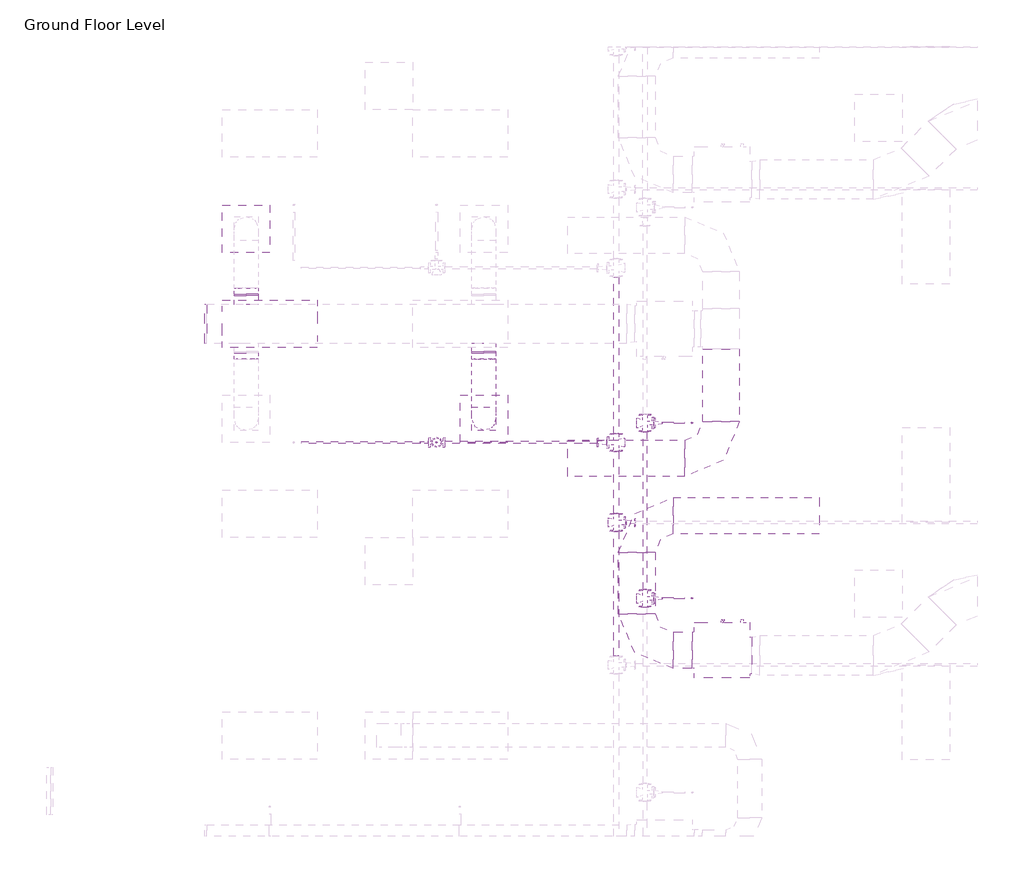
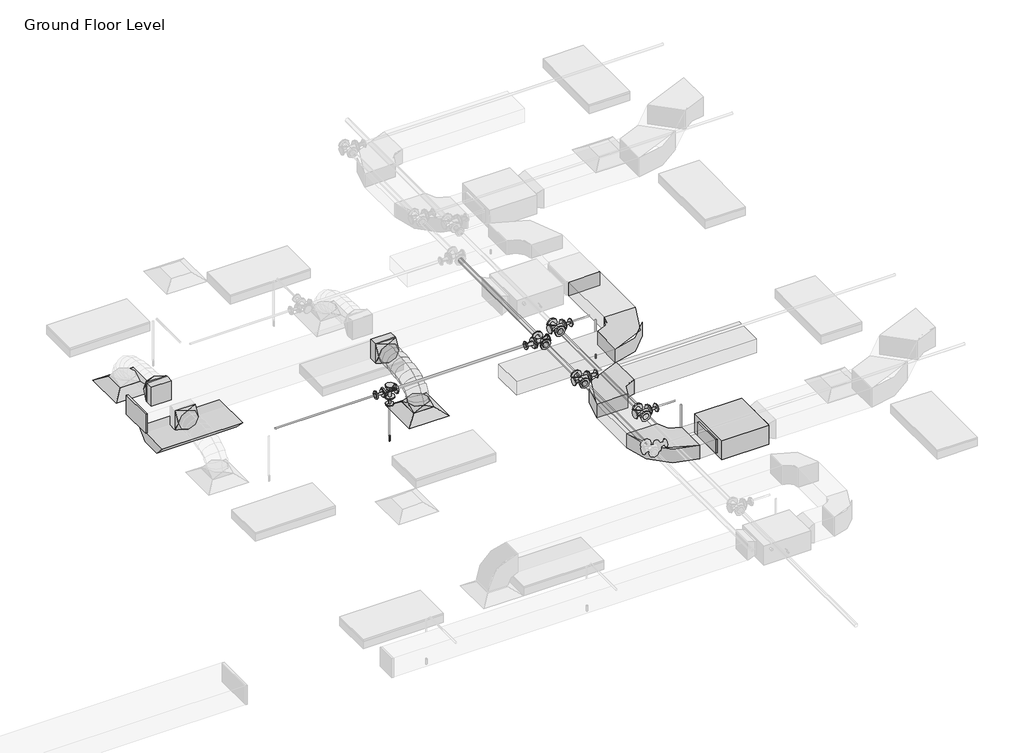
# One storey, part 57 of 68: 11 duct fittings, 11 pipe fittings, 11 pipe segments, 8 duct segments, 3 fire suppression terminals, 2 air terminals, 1 light fixture, 1 proxy.
"""IFC4 building model written with IfcOpenShell, lengths in millimetres."""

from ifc_helpers import new_model, si_unit, point, frame, frame_2d, origin, place, context, project, spatial, polyline, circle_curve, ellipse_curve, trimmed, segment, composite_curve, outline, extrude, transform, mapped, element, save
from ifc_brep_helpers import plane_surface, cylinder_surface, advanced_brep
from components import m_return_diffuser_600_x_600_face_300_x_300_connection_ff221211, fcu_daikin_iu_bad131e0, m_rectangular_elbow_radius_1_w_54c96895, m_rectangular_elbow_radius_1_w_0fa52825, m_rectangular_endcap_standard_72d4d00d, m_rectangular_takeoff_standard_cb0ccb98, m_rectangular_takeoff_standard_2be5eba1, m_rectangular_transition_angle_45_degree_27e6000f, m_rectangular_to_round_transition_angle_45_degree_641efff0, m_sprinkler_dry_pendent_hosted_15_mm_dry_pendent_9bda8e11, m_sprinkler_pendent_15_mm_pendent_06fcbd8e, m_emergency_recessed_lighting_fixture_600x1200_277_5b10b25d, m_reducer_flanged_cs_class_150_standard_ccf252ad, m_reducer_flanged_cs_class_150_standard_83138b42, m_reducer_flanged_cs_class_150_standard_a7631c35, m_reducer_flanged_cs_class_150_standard_5e9b2cee, m_tee_round_base_flanged_cs_class_150_standard_dd767e04, m_tee_round_base_flanged_cs_class_150_standard_7e5987a1, m_tee_round_base_flanged_cs_class_150_standard_ab36f383

model = new_model("IFC4")

# Units and contexts
model_context = context("Model", 3, world=origin())
ifc_project = project(units=[si_unit("LENGTHUNIT", "METRE", prefix="MILLI")], contexts=[model_context])

# Site, building, storey
site = spatial("IfcSite", under=ifc_project)
building = spatial("IfcBuilding", under=site)
storey = spatial("IfcBuildingStorey", under=building, Name="Ground Floor Level", Elevation=900.0)

# Air terminals
placement = place(None, origin())
m_return_diffuser_600_x_600_face_300_x_300_connection_shape = m_return_diffuser_600_x_600_face_300_x_300_connection_ff221211(model_context)
element("IfcAirTerminal", 1, ObjectType="M_Supply Diffuser : 600 x 600 Face 300 x 300 Connection", at=placement, inside=storey, context=model_context, shape_type="MappedRepresentation", body=[
    mapped(m_return_diffuser_600_x_600_face_300_x_300_connection_shape, transform((962.7672395, 5335.2153534, 3650.0), x_axis=(1.0, 0.0, 0.0), y_axis=(0.0, 1.0, 0.0), z_axis=(0.0, 0.0, 1.0))),
])
element("IfcAirTerminal", 2, ObjectType="M_Supply Diffuser : 600 x 600 Face 300 x 300 Connection", at=placement, inside=storey, context=model_context, shape_type="MappedRepresentation", body=[
    mapped(m_return_diffuser_600_x_600_face_300_x_300_connection_shape, transform((3962.7672395, 2935.2153534, 3650.0), x_axis=(1.0, 0.0, 0.0), y_axis=(0.0, 1.0, 0.0), z_axis=(0.0, 0.0, 1.0))),
])

# Proxy
fcu_daikin_iu_shape = fcu_daikin_iu_bad131e0(model_context)
element("IfcBuildingElementProxy", 3, Name="FCU-DAIKIN IU : 4.5kW, 230V/50Hz/1Ph", ObjectType="FCU-DAIKIN IU : 4.5kW, 230V/50Hz/1Ph", at=placement, inside=storey, context=model_context, shape_type="MappedRepresentation", body=[
    mapped(fcu_daikin_iu_shape, transform((6968.8139492, 9.6779527, 3934.0932729), x_axis=(0.0, 1.0, 0.0), y_axis=(-1.0, 0.0, 0.0), z_axis=(0.0, 0.0, 1.0))),
])

# Duct fittings
m_rectangular_elbow_radius_1_w_shape = m_rectangular_elbow_radius_1_w_54c96895(model_context)
element("IfcDuctFitting", 4, ObjectType="M_Rectangular Elbow - Radius : 1 W", at=placement, inside=storey, context=model_context, shape_type="MappedRepresentation", body=[
    mapped(m_rectangular_elbow_radius_1_w_shape, transform((5893.4139492, 9.6779527, 4075.2932729), x_axis=(0.0, -1.0, 0.0), y_axis=(1.0, 0.0, 0.0), z_axis=(0.0, 0.0, 1.0))),
])
element("IfcDuctFitting", 5, ObjectType="M_Rectangular Elbow - Radius : 1 W", at=placement, inside=storey, context=model_context, shape_type="MappedRepresentation", body=[
    mapped(m_rectangular_elbow_radius_1_w_shape, transform((5893.4139492, 1709.6783949, 4075.2932729), x_axis=(-1.0, 0.0, 0.0), y_axis=(0.0, -1.0, 0.0), z_axis=(0.0, 0.0, 1.0))),
])
m_rectangular_elbow_radius_1_w_2_shape = m_rectangular_elbow_radius_1_w_0fa52825(model_context)
element("IfcDuctFitting", 6, ObjectType="M_Rectangular Elbow - Radius : 1 W", at=placement, inside=storey, context=model_context, shape_type="MappedRepresentation", body=[
    mapped(m_rectangular_elbow_radius_1_w_2_shape, transform((6958.8139492, 2435.5824167, 4075.2875), x_axis=(1.0, 0.0, 0.0), y_axis=(0.0, 1.0, 0.0), z_axis=(0.0, 0.0, 1.0))),
])
m_rectangular_endcap_standard_shape = m_rectangular_endcap_standard_72d4d00d(model_context)
element("IfcDuctFitting", 7, ObjectType="M_Rectangular Endcap : Standard", at=placement, inside=storey, context=model_context, shape_type="MappedRepresentation", body=[
    mapped(m_rectangular_endcap_standard_shape, transform((468.0139492, 4135.0199167, 4099.9875), x_axis=(-0.9999999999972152, 0.0, -2.3600398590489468e-06), y_axis=(0.0, -1.0000000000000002, 0.0), z_axis=(-2.3600398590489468e-06, 0.0, 0.9999999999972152))),
])
m_rectangular_takeoff_standard_shape = m_rectangular_takeoff_standard_cb0ccb98(model_context)
element("IfcDuctFitting", 8, ObjectType="M_Rectangular Takeoff : Standard", at=placement, inside=storey, context=model_context, shape_type="MappedRepresentation", body=[
    mapped(m_rectangular_takeoff_standard_shape, transform((3962.7672395, 3885.0199167, 4099.9957478), x_axis=(0.0, -1.0, 0.0), y_axis=(-1.0, 0.0, 0.0), z_axis=(0.0, 0.0, -1.0))),
])
m_rectangular_takeoff_standard_2_shape = m_rectangular_takeoff_standard_2be5eba1(model_context)
element("IfcDuctFitting", 9, ObjectType="M_Rectangular Takeoff : Standard", at=placement, inside=storey, context=model_context, shape_type="MappedRepresentation", body=[
    mapped(m_rectangular_takeoff_standard_2_shape, transform((962.7672395, 4385.0199167, 4099.9886676), x_axis=(0.0, 1.0, 0.0), y_axis=(1.0, 0.0, 0.0), z_axis=(0.0, 0.0, -1.0))),
])
m_rectangular_transition_angle_45_degree_shape = m_rectangular_transition_angle_45_degree_27e6000f(model_context)
element("IfcDuctFitting", 10, ObjectType="M_Rectangular Transition - Angle : 45 Degree", at=placement, inside=storey, context=model_context, shape_type="MappedRepresentation", body=[
    mapped(m_rectangular_transition_angle_45_degree_shape, transform((6958.8139492, 3815.5824167, 4075.2875), x_axis=(0.0, -1.0, 0.0), y_axis=(1.0, 0.0, 0.0), z_axis=(0.0, 0.0, 1.0))),
])
m_rectangular_to_round_transition_angle_45_degree_shape = m_rectangular_to_round_transition_angle_45_degree_641efff0(model_context)
element("IfcDuctFitting", 11, ObjectType="M_Rectangular to Round Transition - Angle : 45 Degree", at=placement, inside=storey, context=model_context, shape_type="MappedRepresentation", body=[
    mapped(m_rectangular_to_round_transition_angle_45_degree_shape, transform((962.7672395, 4507.8680897, 4099.9886676), x_axis=(0.0, 1.0, 0.0), y_axis=(-1.0, 0.0, 0.0), z_axis=(0.0, 0.0, 1.0))),
])
element("IfcDuctFitting", 12, ObjectType="M_Rectangular to Round Transition - Angle : 45 Degree", at=placement, inside=storey, context=model_context, shape_type="MappedRepresentation", body=[
    mapped(m_rectangular_to_round_transition_angle_45_degree_shape, transform((3962.7672395, 2935.2153534, 3751.6), x_axis=(0.0, 0.0, 1.0), y_axis=(-1.0, 0.0, 0.0), z_axis=(0.0, -1.0, 0.0))),
])
element("IfcDuctFitting", 13, ObjectType="M_Rectangular to Round Transition - Angle : 45 Degree", at=placement, inside=storey, context=model_context, shape_type="MappedRepresentation", body=[
    mapped(m_rectangular_to_round_transition_angle_45_degree_shape, transform((3962.7672395, 3762.5555369, 4099.9957478), x_axis=(0.0, -1.0, 0.0), y_axis=(1.0, 0.0, 0.0), z_axis=(0.0, 0.0, 1.0))),
])
element("IfcDuctFitting", 14, ObjectType="M_Rectangular to Round Transition - Angle : 45 Degree", at=placement, inside=storey, context=model_context, shape_type="MappedRepresentation", body=[
    mapped(m_rectangular_to_round_transition_angle_45_degree_shape, transform((962.7672395, 3762.562617, 4099.9886676), x_axis=(0.0, -1.0, 0.0), y_axis=(1.0, 0.0, 0.0), z_axis=(0.0, 0.0, 1.0))),
])

# Duct segments
element("IfcDuctSegment", 15, ObjectType="Flex - Round", at=placement, inside=storey, context=model_context, shape_type="AdvancedBrep", body=[
    advanced_brep(
    [(4112.7672395, 2935.2153534, 3826.6), (3962.7672395, 2785.2153534, 3826.6), (3812.7672395, 2935.2153534, 3826.6), (3962.7672395, 3085.2153534, 3826.6), (4112.7672395, 2935.2153534, 3857.9378899), (3962.7672395, 2785.2153534, 3883.5813304), (3812.7672395, 2935.2153534, 3857.9378899), (3962.7672395, 3085.2153534, 3832.2944495), (4112.7672395, 2952.2314038, 3906.2506504), (3962.7672395, 2818.4936927, 3978.0667363), (3812.7672395, 2952.2314038, 3906.2506504), (3962.7672395, 3085.969115, 3834.4345644), (4112.7672395, 2999.4156052, 3968.7111185), (3962.7672395, 2895.2104338, 4079.6211427), (3812.7672395, 2999.4156052, 3968.7111185), (3962.7672395, 3103.6207766, 3857.8010943), (4112.7672395, 3070.9720324, 4016.0693384), (3962.7672395, 3002.0391237, 4150.3236188), (3812.7672395, 3070.9720324, 4016.0693384), (3962.7672395, 3139.9049411, 3881.8150579), (4112.7672395, 3161.1047605, 4050.413244), (3962.7672395, 3117.545251, 4194.3357287), (3812.7672395, 3161.1047605, 4050.413244), (3962.7672395, 3204.66427, 3906.4907592), (4112.7672395, 3264.0178643, 4073.8307693), (3962.7672395, 3237.4581287, 4221.6214946), (3812.7672395, 3264.0178643, 4073.8307693), (3962.7672395, 3290.5775999, 3926.0400441), (4112.7672395, 3373.9154189, 4088.4098484), (3962.7672395, 3358.7655495, 4237.7142137), (3812.7672395, 3373.9154189, 4088.4098484), (3962.7672395, 3389.0652883, 3939.1054831), (4112.7672395, 3485.0014992, 4096.2384151), (3962.7672395, 3477.4969747, 4246.0815706), (3812.7672395, 3485.0014992, 4096.2384151), (3962.7672395, 3492.5060238, 3946.3952596), (4112.7672395, 3591.4801802, 4099.4044036), (3962.7672395, 3588.7891594, 4249.3906816), (3812.7672395, 3591.4801802, 4099.4044036), (3962.7672395, 3594.1712011, 3949.4181256), (4112.7672395, 3687.5555369, 4099.9957478), (3962.7672395, 3688.47877, 3949.998589), (3812.7672395, 3687.5555369, 4099.9957478), (3962.7672395, 3686.6323039, 4249.9929065)],
    [
        (0, 1, circle_curve(frame((3962.7672395, 2935.2153534, 3826.6), z_axis=(0.0, 0.0, -1.0), x_axis=(1.0, 0.0, 0.0)), 150.0)),
        (1, 2, circle_curve(frame((3962.7672395, 2935.2153534, 3826.6), z_axis=(0.0, 0.0, -1.0), x_axis=(1.0, 0.0, 0.0)), 150.0)),
        (2, 3, circle_curve(frame((3962.7672395, 2935.2153534, 3826.6), z_axis=(0.0, 0.0, -1.0), x_axis=(1.0, 0.0, 0.0)), 150.0)),
        (3, 0, circle_curve(frame((3962.7672395, 2935.2153534, 3826.6), z_axis=(0.0, 0.0, -1.0), x_axis=(1.0, 0.0, 0.0)), 150.0)),
        (0, 4),
        (4, 5, ellipse_curve(frame((3962.7672395, 2935.2153534, 3857.9378899), z_axis=(0.0, -0.1685115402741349, -0.9856996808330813), x_axis=(0.0, 0.9856996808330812, -0.1685115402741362)), 152.1761678, 150.0)),
        (5, 1),
        (5, 6, ellipse_curve(frame((3962.7672395, 2935.2153534, 3857.9378899), z_axis=(0.0, -0.1685115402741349, -0.9856996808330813), x_axis=(0.0, 0.9856996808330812, -0.1685115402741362)), 152.1761678, 150.0)),
        (6, 2),
        (6, 7, ellipse_curve(frame((3962.7672395, 2935.2153534, 3857.9378899), z_axis=(0.0, -0.1685115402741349, -0.9856996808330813), x_axis=(0.0, 0.9856996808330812, -0.1685115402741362)), 152.1761678, 150.0)),
        (7, 3),
        (7, 4, ellipse_curve(frame((3962.7672395, 2935.2153534, 3857.9378899), z_axis=(0.0, -0.1685115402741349, -0.9856996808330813), x_axis=(0.0, 0.9856996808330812, -0.1685115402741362)), 152.1761678, 150.0)),
        (4, 8),
        (8, 9, ellipse_curve(frame((3962.7672395, 2952.2314038, 3906.2506504), z_axis=(0.0, -0.47309586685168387, -0.8810109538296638), x_axis=(0.0, 0.8810109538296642, -0.4730958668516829)), 151.8002819, 150.0)),
        (9, 5),
        (9, 10, ellipse_curve(frame((3962.7672395, 2952.2314038, 3906.2506504), z_axis=(0.0, -0.47309586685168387, -0.8810109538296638), x_axis=(0.0, 0.8810109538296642, -0.4730958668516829)), 151.8002819, 150.0)),
        (10, 6),
        (10, 11, ellipse_curve(frame((3962.7672395, 2952.2314038, 3906.2506504), z_axis=(0.0, -0.47309586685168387, -0.8810109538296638), x_axis=(0.0, 0.8810109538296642, -0.4730958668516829)), 151.8002819, 150.0)),
        (11, 7),
        (11, 8, ellipse_curve(frame((3962.7672395, 2952.2314038, 3906.2506504), z_axis=(0.0, -0.47309586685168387, -0.8810109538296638), x_axis=(0.0, 0.8810109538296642, -0.4730958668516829)), 151.8002819, 150.0)),
        (8, 12),
        (12, 13, ellipse_curve(frame((3962.7672395, 2999.4156052, 3968.7111185), z_axis=(0.0, -0.7287924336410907, -0.68473468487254), x_axis=(0.0, 0.6847346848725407, -0.7287924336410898)), 152.1832817, 150.0)),
        (13, 9),
        (13, 14, ellipse_curve(frame((3962.7672395, 2999.4156052, 3968.7111185), z_axis=(0.0, -0.7287924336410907, -0.68473468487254), x_axis=(0.0, 0.6847346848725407, -0.7287924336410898)), 152.1832817, 150.0)),
        (14, 10),
        (14, 15, ellipse_curve(frame((3962.7672395, 2999.4156052, 3968.7111185), z_axis=(0.0, -0.7287924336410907, -0.68473468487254), x_axis=(0.0, 0.6847346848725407, -0.7287924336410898)), 152.1832817, 150.0)),
        (15, 11),
        (15, 12, ellipse_curve(frame((3962.7672395, 2999.4156052, 3968.7111185), z_axis=(0.0, -0.7287924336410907, -0.68473468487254), x_axis=(0.0, 0.6847346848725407, -0.7287924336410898)), 152.1832817, 150.0)),
        (12, 16),
        (16, 17, ellipse_curve(frame((3962.7672395, 3070.9720324, 4016.0693384), z_axis=(0.0, -0.8895898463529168, -0.4567602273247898), x_axis=(0.0, 0.45676022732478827, -0.8895898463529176)), 150.9170558, 150.0)),
        (17, 13),
        (17, 18, ellipse_curve(frame((3962.7672395, 3070.9720324, 4016.0693384), z_axis=(0.0, -0.8895898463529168, -0.4567602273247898), x_axis=(0.0, 0.45676022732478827, -0.8895898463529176)), 150.9170558, 150.0)),
        (18, 14),
        (18, 19, ellipse_curve(frame((3962.7672395, 3070.9720324, 4016.0693384), z_axis=(0.0, -0.8895898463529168, -0.4567602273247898), x_axis=(0.0, 0.45676022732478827, -0.8895898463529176)), 150.9170558, 150.0)),
        (19, 15),
        (19, 16, ellipse_curve(frame((3962.7672395, 3070.9720324, 4016.0693384), z_axis=(0.0, -0.8895898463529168, -0.4567602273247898), x_axis=(0.0, 0.45676022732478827, -0.8895898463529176)), 150.9170558, 150.0)),
        (16, 20),
        (20, 21, ellipse_curve(frame((3962.7672395, 3161.1047605, 4050.413244), z_axis=(0.0, -0.9571228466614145, -0.28968233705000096), x_axis=(0.0, 0.2896823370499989, -0.9571228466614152)), 150.3699188, 150.0)),
        (21, 17),
        (21, 22, ellipse_curve(frame((3962.7672395, 3161.1047605, 4050.413244), z_axis=(0.0, -0.9571228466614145, -0.28968233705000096), x_axis=(0.0, 0.2896823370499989, -0.9571228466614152)), 150.3699188, 150.0)),
        (22, 18),
        (22, 23, ellipse_curve(frame((3962.7672395, 3161.1047605, 4050.413244), z_axis=(0.0, -0.9571228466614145, -0.28968233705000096), x_axis=(0.0, 0.2896823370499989, -0.9571228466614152)), 150.3699188, 150.0)),
        (23, 19),
        (23, 20, ellipse_curve(frame((3962.7672395, 3161.1047605, 4050.413244), z_axis=(0.0, -0.9571228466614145, -0.28968233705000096), x_axis=(0.0, 0.2896823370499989, -0.9571228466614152)), 150.3699188, 150.0)),
        (20, 24),
        (24, 25, ellipse_curve(frame((3962.7672395, 3264.0178643, 4073.8307693), z_axis=(0.0, -0.9842327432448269, -0.17687822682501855), x_axis=(0.0, 0.17687822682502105, -0.9842327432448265)), 150.1583099, 150.0)),
        (25, 21),
        (25, 26, ellipse_curve(frame((3962.7672395, 3264.0178643, 4073.8307693), z_axis=(0.0, -0.9842327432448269, -0.17687822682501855), x_axis=(0.0, 0.17687822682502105, -0.9842327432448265)), 150.1583099, 150.0)),
        (26, 22),
        (26, 27, ellipse_curve(frame((3962.7672395, 3264.0178643, 4073.8307693), z_axis=(0.0, -0.9842327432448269, -0.17687822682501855), x_axis=(0.0, 0.17687822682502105, -0.9842327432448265)), 150.1583099, 150.0)),
        (27, 23),
        (27, 24, ellipse_curve(frame((3962.7672395, 3264.0178643, 4073.8307693), z_axis=(0.0, -0.9842327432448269, -0.17687822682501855), x_axis=(0.0, 0.17687822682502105, -0.9842327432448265)), 150.1583099, 150.0)),
        (24, 28),
        (28, 29, ellipse_curve(frame((3962.7672395, 3373.9154189, 4088.4098484), z_axis=(0.0, -0.9948913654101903, -0.10095133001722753), x_axis=(0.0, 0.10095133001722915, -0.9948913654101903)), 150.0710233, 150.0)),
        (29, 25),
        (29, 30, ellipse_curve(frame((3962.7672395, 3373.9154189, 4088.4098484), z_axis=(0.0, -0.9948913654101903, -0.10095133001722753), x_axis=(0.0, 0.10095133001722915, -0.9948913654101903)), 150.0710233, 150.0)),
        (30, 26),
        (30, 31, ellipse_curve(frame((3962.7672395, 3373.9154189, 4088.4098484), z_axis=(0.0, -0.9948913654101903, -0.10095133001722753), x_axis=(0.0, 0.10095133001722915, -0.9948913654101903)), 150.0710233, 150.0)),
        (31, 27),
        (31, 28, ellipse_curve(frame((3962.7672395, 3373.9154189, 4088.4098484), z_axis=(0.0, -0.9948913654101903, -0.10095133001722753), x_axis=(0.0, 0.10095133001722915, -0.9948913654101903)), 150.0710233, 150.0)),
        (28, 32),
        (32, 33, ellipse_curve(frame((3962.7672395, 3485.0014992, 4096.2384151), z_axis=(0.0, -0.9987482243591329, -0.05001983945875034), x_axis=(0.0, 0.05001983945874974, -0.9987482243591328)), 150.0309606, 150.0)),
        (33, 29),
        (33, 34, ellipse_curve(frame((3962.7672395, 3485.0014992, 4096.2384151), z_axis=(0.0, -0.9987482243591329, -0.05001983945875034), x_axis=(0.0, 0.05001983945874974, -0.9987482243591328)), 150.0309606, 150.0)),
        (34, 30),
        (34, 35, ellipse_curve(frame((3962.7672395, 3485.0014992, 4096.2384151), z_axis=(0.0, -0.9987482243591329, -0.05001983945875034), x_axis=(0.0, 0.05001983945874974, -0.9987482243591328)), 150.0309606, 150.0)),
        (35, 31),
        (35, 32, ellipse_curve(frame((3962.7672395, 3485.0014992, 4096.2384151), z_axis=(0.0, -0.9987482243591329, -0.05001983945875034), x_axis=(0.0, 0.05001983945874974, -0.9987482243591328)), 150.0309606, 150.0)),
        (32, 36),
        (36, 37, ellipse_curve(frame((3962.7672395, 3591.4801802, 4099.4044036), z_axis=(0.0, -0.9998390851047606, -0.017938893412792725), x_axis=(0.0, 0.017938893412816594, -0.99983908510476)), 150.0104169, 150.0)),
        (37, 33),
        (37, 38, ellipse_curve(frame((3962.7672395, 3591.4801802, 4099.4044036), z_axis=(0.0, -0.9998390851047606, -0.017938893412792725), x_axis=(0.0, 0.017938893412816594, -0.99983908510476)), 150.0104169, 150.0)),
        (38, 34),
        (38, 39, ellipse_curve(frame((3962.7672395, 3591.4801802, 4099.4044036), z_axis=(0.0, -0.9998390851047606, -0.017938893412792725), x_axis=(0.0, 0.017938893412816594, -0.99983908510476)), 150.0104169, 150.0)),
        (39, 35),
        (39, 36, ellipse_curve(frame((3962.7672395, 3591.4801802, 4099.4044036), z_axis=(0.0, -0.9998390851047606, -0.017938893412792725), x_axis=(0.0, 0.017938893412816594, -0.99983908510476)), 150.0104169, 150.0)),
        (40, 41, circle_curve(frame((3962.7672395, 3687.5555369, 4099.9957478), z_axis=(0.0, 0.9999810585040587, 0.006154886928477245), x_axis=(1.0, 0.0, 0.0)), 150.0)),
        (41, 42, circle_curve(frame((3962.7672395, 3687.5555369, 4099.9957478), z_axis=(0.0, 0.9999810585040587, 0.006154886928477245), x_axis=(1.0, 0.0, 0.0)), 150.0)),
        (42, 43, circle_curve(frame((3962.7672395, 3687.5555369, 4099.9957478), z_axis=(0.0, 0.9999810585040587, 0.006154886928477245), x_axis=(1.0, 0.0, 0.0)), 150.0)),
        (43, 40, circle_curve(frame((3962.7672395, 3687.5555369, 4099.9957478), z_axis=(0.0, 0.9999810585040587, 0.006154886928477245), x_axis=(1.0, 0.0, 0.0)), 150.0)),
        (36, 40),
        (43, 37),
        (42, 38),
        (41, 39),
    ],
    [
        plane_surface(frame((3962.7672395, 2785.2153534, 3826.6), z_axis=(0.0, 0.0, -1.0), x_axis=(1.0, 0.0, 0.0))),
        cylinder_surface(frame((3962.7672395, 2935.2153534, 3826.6), z_axis=(0.0, 0.0, -1.0), x_axis=(1.0, 0.0, 0.0)), 150.0),
        cylinder_surface(frame((3962.7672395, 2935.2153534, 3857.9378899), z_axis=(0.0, -0.33220354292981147, -0.9432077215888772), x_axis=(1.0, 0.0, 0.0)), 150.0),
        cylinder_surface(frame((3962.7672395, 2952.2314038, 3906.2506504), z_axis=(0.0, -0.6027667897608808, -0.7979174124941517), x_axis=(1.0, 0.0, 0.0)), 150.0),
        cylinder_surface(frame((3962.7672395, 2999.4156052, 3968.7111185), z_axis=(0.0, -0.833906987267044, -0.5519050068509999), x_axis=(1.0, 0.0, 0.0)), 150.0),
        cylinder_surface(frame((3962.7672395, 3070.9720324, 4016.0693384), z_axis=(0.0, -0.9344614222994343, -0.35606439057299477), x_axis=(1.0, 0.0, 0.0)), 150.0),
        cylinder_surface(frame((3962.7672395, 3161.1047605, 4050.413244), z_axis=(0.0, -0.9750751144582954, -0.22187501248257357), x_axis=(1.0, 0.0, 0.0)), 150.0),
        cylinder_surface(frame((3962.7672395, 3264.0178643, 4073.8307693), z_axis=(0.0, -0.9913150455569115, -0.1315084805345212), x_axis=(1.0, 0.0, 0.0)), 150.0),
        cylinder_surface(frame((3962.7672395, 3373.9154189, 4088.4098484), z_axis=(0.0, -0.997525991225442, -0.07029862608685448), x_axis=(1.0, 0.0, 0.0)), 150.0),
        cylinder_surface(frame((3962.7672395, 3485.0014992, 4096.2384151), z_axis=(0.0, -0.9995582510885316, -0.029720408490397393), x_axis=(1.0, 0.0, 0.0)), 150.0),
        plane_surface(frame((3962.7672395, 3686.6323039, 4249.9929065), z_axis=(0.0, 0.9999810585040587, 0.006154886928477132), x_axis=(1.0, 0.0, 0.0))),
        cylinder_surface(frame((3962.7672395, 3591.4801802, 4099.4044036), z_axis=(0.0, -0.9999810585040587, -0.006154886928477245), x_axis=(1.0, 0.0, 0.0)), 150.0),
    ],
    [
        (0, [[1, 2, 3, 4]]),
        (1, [[-1, 5, 6, 7]]),
        (1, [[-2, -7, 8, 9]]),
        (1, [[-3, -9, 10, 11]]),
        (1, [[-4, -11, 12, -5]]),
        (2, [[-6, 13, 14, 15]]),
        (2, [[-8, -15, 16, 17]]),
        (2, [[-10, -17, 18, 19]]),
        (2, [[-12, -19, 20, -13]]),
        (3, [[-14, 21, 22, 23]]),
        (3, [[-16, -23, 24, 25]]),
        (3, [[-18, -25, 26, 27]]),
        (3, [[-20, -27, 28, -21]]),
        (4, [[-22, 29, 30, 31]]),
        (4, [[-24, -31, 32, 33]]),
        (4, [[-26, -33, 34, 35]]),
        (4, [[-28, -35, 36, -29]]),
        (5, [[-30, 37, 38, 39]]),
        (5, [[-32, -39, 40, 41]]),
        (5, [[-34, -41, 42, 43]]),
        (5, [[-36, -43, 44, -37]]),
        (6, [[-38, 45, 46, 47]]),
        (6, [[-40, -47, 48, 49]]),
        (6, [[-42, -49, 50, 51]]),
        (6, [[-44, -51, 52, -45]]),
        (7, [[-46, 53, 54, 55]]),
        (7, [[-48, -55, 56, 57]]),
        (7, [[-50, -57, 58, 59]]),
        (7, [[-52, -59, 60, -53]]),
        (8, [[-54, 61, 62, 63]]),
        (8, [[-56, -63, 64, 65]]),
        (8, [[-58, -65, 66, 67]]),
        (8, [[-60, -67, 68, -61]]),
        (9, [[-62, 69, 70, 71]]),
        (9, [[-64, -71, 72, 73]]),
        (9, [[-66, -73, 74, 75]]),
        (9, [[-68, -75, 76, -69]]),
        (10, [[77, 78, 79, 80]]),
        (11, [[-70, 81, -80, 82]]),
        (11, [[-72, -82, -79, 83]]),
        (11, [[-74, -83, -78, 84]]),
        (11, [[-76, -84, -77, -81]]),
    ],
),
])
element("IfcDuctSegment", 16, ObjectType="Radius Elbows / Taps", at=placement, inside=storey, context=model_context, shape_type="SweptSolid", body=[
    extrude(outline(polyline([(6593.4139492, 240.6154527), (6593.4139492, -221.2595473), (6355.2889492, -221.2595473), (6355.2889492, 240.6154527), (6593.4139492, 240.6154527)])), frame((0.0, 0.0, 3968.1432729), z_axis=(0.0, 0.0, 1.0), x_axis=(1.0, 0.0, 0.0)), (0.0, 0.0, 1.0), 214.3),
])
element("IfcDuctSegment", 17, ObjectType="Radius Elbows / Taps", at=placement, inside=storey, context=model_context, shape_type="SweptSolid", body=[
    extrude(outline(polyline([(6124.3514492, 471.5529527), (5662.4764492, 471.5529527), (5662.4764492, 1247.8033949), (6124.3514492, 1247.8033949), (6124.3514492, 471.5529527)])), frame((0.0, 0.0, 3968.1432729), z_axis=(0.0, 0.0, 1.0), x_axis=(1.0, 0.0, 0.0)), (0.0, 0.0, 1.0), 214.3),
])
element("IfcDuctSegment", 18, ObjectType="Radius Elbows / Taps", at=placement, inside=storey, context=model_context, shape_type="SweptSolid", body=[
    extrude(outline(polyline([(6355.2889492, 1478.7408949), (6355.2889492, 1940.6158949), (8193.4139492, 1940.6158949), (8193.4139492, 1478.7408949), (6355.2889492, 1478.7408949)])), frame((0.0, 0.0, 3968.1432729), z_axis=(0.0, 0.0, 1.0), x_axis=(1.0, 0.0, 0.0)), (0.0, 0.0, 1.0), 214.3),
])
element("IfcDuctSegment", 19, ObjectType="Radius Elbows / Taps", at=placement, inside=storey, context=model_context, shape_type="SweptSolid", body=[
    extrude(outline(polyline([(6727.8139492, 3815.2202847), (7189.8139492, 3815.2202847), (7189.8139492, 2897.5824167), (6727.8139492, 2897.5824167), (6727.8139492, 3815.2202847)])), frame((0.0, 0.0, 3968.2875), z_axis=(0.0, 0.0, 1.0), x_axis=(1.0, 0.0, 0.0)), (0.0, 0.0, 1.0), 214.0),
])
element("IfcDuctSegment", 20, ObjectType="Radius Elbows / Taps", at=placement, inside=storey, context=model_context, shape_type="SweptSolid", body=[
    extrude(outline(polyline([(6496.8139492, 2666.5824167), (6496.8139492, 2204.5824167), (5018.8139492, 2204.5824167), (5018.8139492, 2666.5824167), (6496.8139492, 2666.5824167)])), frame((0.0, 0.0, 3968.2875), z_axis=(0.0, 0.0, 1.0), x_axis=(1.0, 0.0, 0.0)), (0.0, 0.0, 1.0), 214.0),
])
element("IfcDuctSegment", 21, ObjectType="Radius Elbows / Taps", at=placement, inside=storey, context=model_context, shape_type="SweptSolid", body=[
    extrude(outline(polyline([(1112.7672395, 4486.6199167), (812.7672395, 4486.6199167), (812.7672395, 4507.8680897), (1112.7672395, 4507.8680897), (1112.7672395, 4486.6199167)])), frame((0.0, 0.0, 3949.9886676), z_axis=(0.0, 0.0, 1.0), x_axis=(1.0, 0.0, 0.0)), (0.0, 0.0, 1.0), 300.0),
])
element("IfcDuctSegment", 22, ObjectType="Radius Elbows / Taps", at=placement, inside=storey, context=model_context, shape_type="SweptSolid", body=[
    extrude(outline(polyline([(3812.7672395, 3783.4199167), (4112.7672395, 3783.4199167), (4112.7672395, 3762.5555369), (3812.7672395, 3762.5555369), (3812.7672395, 3783.4199167)])), frame((0.0, 0.0, 3949.9957478), z_axis=(0.0, 0.0, 1.0), x_axis=(1.0, 0.0, 0.0)), (0.0, 0.0, 1.0), 300.0),
])

# Fire suppression terminals
m_sprinkler_dry_pendent_hosted_15_mm_dry_pendent_shape = m_sprinkler_dry_pendent_hosted_15_mm_dry_pendent_9bda8e11(model_context)
element("IfcFireSuppressionTerminal", 23, ObjectType="M_Sprinkler - Dry - Pendent - Hosted : 15 mm Dry Pendent", at=placement, inside=storey, context=model_context, shape_type="MappedRepresentation", body=[
    mapped(m_sprinkler_dry_pendent_hosted_15_mm_dry_pendent_shape, transform((3367.3772563, 2635.2153534, 3650.0), x_axis=(1.0, 0.0, 0.0), y_axis=(0.0, -1.0, 0.0), z_axis=(0.0, 0.0, -1.0))),
])
m_sprinkler_pendent_15_mm_pendent_shape = m_sprinkler_pendent_15_mm_pendent_06fcbd8e(model_context)
element("IfcFireSuppressionTerminal", 24, ObjectType="M_Sprinkler - Pendent : 15 mm Pendent", at=placement, inside=storey, context=model_context, shape_type="MappedRepresentation", body=[
    mapped(m_sprinkler_pendent_15_mm_pendent_shape, transform((6592.5481019, 2881.5134565, 3650.0), x_axis=(1.0, 0.0, 0.0), y_axis=(0.0, 1.0, 0.0), z_axis=(0.0, 0.0, 1.0))),
])
element("IfcFireSuppressionTerminal", 25, ObjectType="M_Sprinkler - Pendent : 15 mm Pendent", at=placement, inside=storey, context=model_context, shape_type="MappedRepresentation", body=[
    mapped(m_sprinkler_pendent_15_mm_pendent_shape, transform((6592.5481019, 666.6492065, 3650.0), x_axis=(1.0, 0.0, 0.0), y_axis=(0.0, 1.0, 0.0), z_axis=(0.0, 0.0, 1.0))),
])

# Light fixture
m_emergency_recessed_lighting_fixture_600x1200_277_shape = m_emergency_recessed_lighting_fixture_600x1200_277_5b10b25d(model_context)
element("IfcLightFixture", 26, ObjectType="M_Emergency Recessed Lighting Fixture : 600x1200 - 277", at=placement, inside=storey, context=model_context, shape_type="MappedRepresentation", body=[
    mapped(m_emergency_recessed_lighting_fixture_600x1200_277_shape, transform((662.7672395, 4435.2153534, 3650.0), x_axis=(1.0, 0.0, 0.0), y_axis=(0.0, 1.0, 0.0), z_axis=(0.0, 0.0, 1.0))),
])

# Pipe fittings
m_reducer_flanged_cs_class_150_standard_shape = m_reducer_flanged_cs_class_150_standard_ccf252ad(model_context)
element("IfcPipeFitting", 27, ObjectType="M_Reducer - Flanged - CS - Class 150 : Standard", at=placement, inside=storey, context=model_context, shape_type="MappedRepresentation", body=[
    mapped(m_reducer_flanged_cs_class_150_standard_shape, transform((3266.6686625, 2635.2153534, 4360.0), x_axis=(-1.0, 0.0, 0.0), y_axis=(0.0, 0.0, 1.0), z_axis=(0.0, 1.0, 0.0))),
])
element("IfcPipeFitting", 28, ObjectType="M_Reducer - Flanged - CS - Class 150 : Standard", at=placement, inside=storey, context=model_context, shape_type="MappedRepresentation", body=[
    mapped(m_reducer_flanged_cs_class_150_standard_shape, transform((3367.3772563, 2635.2153534, 4259.2914062), x_axis=(0.0, 0.0, -1.0), y_axis=(-1.0, 0.0, 0.0), z_axis=(0.0, 1.0, 0.0))),
])
m_reducer_flanged_cs_class_150_standard_2_shape = m_reducer_flanged_cs_class_150_standard_83138b42(model_context)
element("IfcPipeFitting", 29, ObjectType="M_Reducer - Flanged - CS - Class 150 : Standard", at=placement, inside=storey, context=model_context, shape_type="MappedRepresentation", body=[
    mapped(m_reducer_flanged_cs_class_150_standard_2_shape, transform((6109.3164057, 2881.5134565, 4291.2754753), x_axis=(1.0, 0.0, 0.0), y_axis=(0.0, 0.0, -1.0), z_axis=(0.0, 1.0, 0.0))),
])
element("IfcPipeFitting", 30, ObjectType="M_Reducer - Flanged - CS - Class 150 : Standard", at=placement, inside=storey, context=model_context, shape_type="MappedRepresentation", body=[
    mapped(m_reducer_flanged_cs_class_150_standard_2_shape, transform((6109.3164057, 666.6492065, 4291.2754753), x_axis=(1.0, 0.0, 0.0), y_axis=(0.0, 0.0, -1.0), z_axis=(0.0, 1.0, 0.0))),
])
m_reducer_flanged_cs_class_150_standard_3_shape = m_reducer_flanged_cs_class_150_standard_a7631c35(model_context)
element("IfcPipeFitting", 31, ObjectType="M_Reducer - Flanged - CS - Class 150 : Standard", at=placement, inside=storey, context=model_context, shape_type="MappedRepresentation", body=[
    mapped(m_reducer_flanged_cs_class_150_standard_3_shape, transform((5749.869498, 1625.2153534, 4360.0), x_axis=(1.0, 0.0, 0.0), y_axis=(0.0, 0.0, 1.0), z_axis=(0.0, -1.0, 0.0))),
])
m_reducer_flanged_cs_class_150_standard_4_shape = m_reducer_flanged_cs_class_150_standard_5e9b2cee(model_context)
element("IfcPipeFitting", 32, ObjectType="M_Reducer - Flanged - CS - Class 150 : Standard", at=placement, inside=storey, context=model_context, shape_type="MappedRepresentation", body=[
    mapped(m_reducer_flanged_cs_class_150_standard_4_shape, transform((5521.869498, 2635.2153534, 4360.0), x_axis=(-1.0, 0.0, 0.0), y_axis=(0.0, 0.0, -1.0), z_axis=(0.0, -1.0, 0.0))),
])
m_tee_round_base_flanged_cs_class_150_standard_shape = m_tee_round_base_flanged_cs_class_150_standard_dd767e04(model_context)
element("IfcPipeFitting", 33, ObjectType="M_Tee Round Base - Flanged - CS - Class 150 : Standard", at=placement, inside=storey, context=model_context, shape_type="MappedRepresentation", body=[
    mapped(m_tee_round_base_flanged_cs_class_150_standard_shape, transform((5635.869498, 1625.2153534, 4360.0), x_axis=(0.0, 1.0, 0.0), y_axis=(-1.0, 0.0, 0.0), z_axis=(0.0, 0.0, 1.0))),
])
element("IfcPipeFitting", 34, ObjectType="M_Tee Round Base - Flanged - CS - Class 150 : Standard", at=placement, inside=storey, context=model_context, shape_type="MappedRepresentation", body=[
    mapped(m_tee_round_base_flanged_cs_class_150_standard_shape, transform((5635.869498, 2635.2153534, 4360.0), x_axis=(0.0, 1.0, 0.0), y_axis=(1.0, 0.0, 0.0), z_axis=(0.0, 0.0, -1.0))),
])
m_tee_round_base_flanged_cs_class_150_standard_2_shape = m_tee_round_base_flanged_cs_class_150_standard_7e5987a1(model_context)
element("IfcPipeFitting", 35, ObjectType="M_Tee Round Base - Flanged - CS - Class 150 : Standard", at=placement, inside=storey, context=model_context, shape_type="MappedRepresentation", body=[
    mapped(m_tee_round_base_flanged_cs_class_150_standard_2_shape, transform((3367.3772563, 2635.2153534, 4360.0), x_axis=(-1.0, 0.0, 0.0), y_axis=(0.0, 0.0, 1.0), z_axis=(0.0, 1.0, 0.0))),
])
m_tee_round_base_flanged_cs_class_150_standard_3_shape = m_tee_round_base_flanged_cs_class_150_standard_ab36f383(model_context)
element("IfcPipeFitting", 36, ObjectType="M_Tee Round Base - Flanged - CS - Class 150 : Standard", at=placement, inside=storey, context=model_context, shape_type="MappedRepresentation", body=[
    mapped(m_tee_round_base_flanged_cs_class_150_standard_3_shape, transform((5997.057812, 2881.5134565, 4291.0943441), x_axis=(0.0, 1.0, 0.0), y_axis=(-1.0, 0.0, 0.0), z_axis=(0.0, 0.0, 1.0))),
])
element("IfcPipeFitting", 37, ObjectType="M_Tee Round Base - Flanged - CS - Class 150 : Standard", at=placement, inside=storey, context=model_context, shape_type="MappedRepresentation", body=[
    mapped(m_tee_round_base_flanged_cs_class_150_standard_3_shape, transform((5997.057812, 666.6492065, 4291.0943441), x_axis=(0.0, 1.0, 0.0), y_axis=(-1.0, 0.0, 0.0), z_axis=(0.0, 0.0, 1.0))),
])

# Pipe segments
element("IfcPipeSegment", 38, ObjectType="Steel flanged", at=placement, inside=storey, context=model_context, shape_type="SweptSolid", body=[
    extrude(outline(composite_curve([segment(trimmed(circle_curve(frame_2d((6592.5481019, 2881.5134565)), 10.668), [point((6581.8801019, 2881.5134565))], [point((6592.5481019, 2892.1814565))], False, "CARTESIAN"), True, "CONTINUOUS"), segment(trimmed(circle_curve(frame_2d((6592.5481019, 2881.5134565)), 10.668), [point((6592.5481019, 2892.1814565))], [point((6603.2161019, 2881.5134565))], False, "CARTESIAN"), True, "CONTINUOUS"), segment(trimmed(circle_curve(frame_2d((6592.5481019, 2881.5134565)), 10.668), [point((6603.2161019, 2881.5134565))], [point((6592.5481019, 2870.8454565))], False, "CARTESIAN"), True, "CONTINUOUS"), segment(trimmed(circle_curve(frame_2d((6592.5481019, 2881.5134565)), 10.668), [point((6592.5481019, 2870.8454565))], [point((6581.8801019, 2881.5134565))], False, "CARTESIAN"), True, "CONTINUOUS")], self_intersect=False)), frame((0.0, 0.0, 3650.0), z_axis=(0.0, 0.0, 1.0), x_axis=(1.0, 0.0, 0.0)), (0.0, 0.0, 1.0), 548.2668816),
])
element("IfcPipeSegment", 39, ObjectType="Steel flanged", at=placement, inside=storey, context=model_context, shape_type="SweptSolid", body=[
    extrude(outline(composite_curve([segment(trimmed(circle_curve(frame_2d((2881.5134565, 4291.2754753)), 10.668), [point((2892.1814565, 4291.2754753))], [point((2881.5134565, 4280.6074753))], False, "CARTESIAN"), True, "CONTINUOUS"), segment(trimmed(circle_curve(frame_2d((2881.5134565, 4291.2754753)), 10.668), [point((2881.5134565, 4280.6074753))], [point((2870.8454565, 4291.2754753))], False, "CARTESIAN"), True, "CONTINUOUS"), segment(trimmed(circle_curve(frame_2d((2881.5134565, 4291.2754753)), 10.668), [point((2870.8454565, 4291.2754753))], [point((2881.5134565, 4301.9434753))], False, "CARTESIAN"), True, "CONTINUOUS"), segment(trimmed(circle_curve(frame_2d((2881.5134565, 4291.2754753)), 10.668), [point((2881.5134565, 4301.9434753))], [point((2892.1814565, 4291.2754753))], False, "CARTESIAN"), True, "CONTINUOUS")], self_intersect=False)), frame((6223.3164057, 0.0, 0.0), z_axis=(1.0, 0.0, 0.0), x_axis=(0.0, 1.0, 0.0)), (0.0, 0.0, 1.0), 276.2231025),
])
element("IfcPipeSegment", 40, ObjectType="Steel flanged", at=placement, inside=storey, context=model_context, shape_type="SweptSolid", body=[
    extrude(outline(composite_curve([segment(trimmed(circle_curve(frame_2d((6592.5481019, 666.6492065)), 10.668), [point((6581.8801019, 666.6492065))], [point((6592.5481019, 677.3172065))], False, "CARTESIAN"), True, "CONTINUOUS"), segment(trimmed(circle_curve(frame_2d((6592.5481019, 666.6492065)), 10.668), [point((6592.5481019, 677.3172065))], [point((6603.2161019, 666.6492065))], False, "CARTESIAN"), True, "CONTINUOUS"), segment(trimmed(circle_curve(frame_2d((6592.5481019, 666.6492065)), 10.668), [point((6603.2161019, 666.6492065))], [point((6592.5481019, 655.9812065))], False, "CARTESIAN"), True, "CONTINUOUS"), segment(trimmed(circle_curve(frame_2d((6592.5481019, 666.6492065)), 10.668), [point((6592.5481019, 655.9812065))], [point((6581.8801019, 666.6492065))], False, "CARTESIAN"), True, "CONTINUOUS")], self_intersect=False)), frame((0.0, 0.0, 3650.0), z_axis=(0.0, 0.0, 1.0), x_axis=(1.0, 0.0, 0.0)), (0.0, 0.0, 1.0), 548.2668816),
])
element("IfcPipeSegment", 41, ObjectType="Steel flanged", at=placement, inside=storey, context=model_context, shape_type="SweptSolid", body=[
    extrude(outline(composite_curve([segment(trimmed(circle_curve(frame_2d((666.6492065, 4291.2754753)), 10.668), [point((677.3172065, 4291.2754753))], [point((666.6492065, 4280.6074753))], False, "CARTESIAN"), True, "CONTINUOUS"), segment(trimmed(circle_curve(frame_2d((666.6492065, 4291.2754753)), 10.668), [point((666.6492065, 4280.6074753))], [point((655.9812065, 4291.2754753))], False, "CARTESIAN"), True, "CONTINUOUS"), segment(trimmed(circle_curve(frame_2d((666.6492065, 4291.2754753)), 10.668), [point((655.9812065, 4291.2754753))], [point((666.6492065, 4301.9434753))], False, "CARTESIAN"), True, "CONTINUOUS"), segment(trimmed(circle_curve(frame_2d((666.6492065, 4291.2754753)), 10.668), [point((666.6492065, 4301.9434753))], [point((677.3172065, 4291.2754753))], False, "CARTESIAN"), True, "CONTINUOUS")], self_intersect=False)), frame((6223.3164057, 0.0, 0.0), z_axis=(1.0, 0.0, 0.0), x_axis=(0.0, 1.0, 0.0)), (0.0, 0.0, 1.0), 276.2231025),
])
element("IfcPipeSegment", 42, ObjectType="Steel flanged", at=placement, inside=storey, context=model_context, shape_type="SweptSolid", body=[
    extrude(outline(composite_curve([segment(trimmed(circle_curve(frame_2d((4291.0943441, 5997.057812)), 24.13), [point((4291.0943441, 5972.927812))], [point((4266.9643441, 5997.057812))], False, "CARTESIAN"), True, "CONTINUOUS"), segment(trimmed(circle_curve(frame_2d((4291.0943441, 5997.057812)), 24.13), [point((4266.9643441, 5997.057812))], [point((4291.0943441, 6021.187812))], False, "CARTESIAN"), True, "CONTINUOUS"), segment(trimmed(circle_curve(frame_2d((4291.0943441, 5997.057812)), 24.13), [point((4291.0943441, 6021.187812))], [point((4315.2243441, 5997.057812))], False, "CARTESIAN"), True, "CONTINUOUS"), segment(trimmed(circle_curve(frame_2d((4291.0943441, 5997.057812)), 24.13), [point((4315.2243441, 5997.057812))], [point((4291.0943441, 5972.927812))], False, "CARTESIAN"), True, "CONTINUOUS")], self_intersect=False)), frame((0.0, 778.9078002, 0.0), z_axis=(0.0, 1.0, 0.0), x_axis=(0.0, 0.0, 1.0)), (0.0, 0.0, 1.0), 1990.3470625),
])
element("IfcPipeSegment", 43, ObjectType="Steel flanged", at=placement, inside=storey, context=model_context, shape_type="SweptSolid", body=[
    extrude(outline(composite_curve([segment(trimmed(circle_curve(frame_2d((4360.0, 5635.869498)), 30.1625), [point((4360.0, 5605.706998))], [point((4329.8375, 5635.869498))], False, "CARTESIAN"), True, "CONTINUOUS"), segment(trimmed(circle_curve(frame_2d((4360.0, 5635.869498)), 30.1625), [point((4329.8375, 5635.869498))], [point((4360.0, 5666.031998))], False, "CARTESIAN"), True, "CONTINUOUS"), segment(trimmed(circle_curve(frame_2d((4360.0, 5635.869498)), 30.1625), [point((4360.0, 5666.031998))], [point((4390.1625, 5635.869498))], False, "CARTESIAN"), True, "CONTINUOUS"), segment(trimmed(circle_curve(frame_2d((4360.0, 5635.869498)), 30.1625), [point((4390.1625, 5635.869498))], [point((4360.0, 5605.706998))], False, "CARTESIAN"), True, "CONTINUOUS")], self_intersect=False)), frame((0.0, -60.7846466, 0.0), z_axis=(0.0, 1.0, 0.0), x_axis=(0.0, 0.0, 1.0)), (0.0, 0.0, 1.0), 1572.0),
])
element("IfcPipeSegment", 44, ObjectType="Steel flanged", at=placement, inside=storey, context=model_context, shape_type="SweptSolid", body=[
    extrude(outline(composite_curve([segment(trimmed(circle_curve(frame_2d((4360.0, 5635.869498)), 30.1625), [point((4360.0, 5605.706998))], [point((4329.8375, 5635.869498))], False, "CARTESIAN"), True, "CONTINUOUS"), segment(trimmed(circle_curve(frame_2d((4360.0, 5635.869498)), 30.1625), [point((4329.8375, 5635.869498))], [point((4360.0, 5666.031998))], False, "CARTESIAN"), True, "CONTINUOUS"), segment(trimmed(circle_curve(frame_2d((4360.0, 5635.869498)), 30.1625), [point((4360.0, 5666.031998))], [point((4390.1625, 5635.869498))], False, "CARTESIAN"), True, "CONTINUOUS"), segment(trimmed(circle_curve(frame_2d((4360.0, 5635.869498)), 30.1625), [point((4390.1625, 5635.869498))], [point((4360.0, 5605.706998))], False, "CARTESIAN"), True, "CONTINUOUS")], self_intersect=False)), frame((0.0, 1739.2153534, 0.0), z_axis=(0.0, 1.0, 0.0), x_axis=(0.0, 0.0, 1.0)), (0.0, 0.0, 1.0), 782.0),
])
element("IfcPipeSegment", 45, ObjectType="Steel flanged", at=placement, inside=storey, context=model_context, shape_type="SweptSolid", body=[
    extrude(outline(composite_curve([segment(trimmed(circle_curve(frame_2d((4360.0, 5635.869498)), 30.1625), [point((4360.0, 5605.706998))], [point((4329.8375, 5635.869498))], False, "CARTESIAN"), True, "CONTINUOUS"), segment(trimmed(circle_curve(frame_2d((4360.0, 5635.869498)), 30.1625), [point((4329.8375, 5635.869498))], [point((4360.0, 5666.031998))], False, "CARTESIAN"), True, "CONTINUOUS"), segment(trimmed(circle_curve(frame_2d((4360.0, 5635.869498)), 30.1625), [point((4360.0, 5666.031998))], [point((4390.1625, 5635.869498))], False, "CARTESIAN"), True, "CONTINUOUS"), segment(trimmed(circle_curve(frame_2d((4360.0, 5635.869498)), 30.1625), [point((4390.1625, 5635.869498))], [point((4360.0, 5605.706998))], False, "CARTESIAN"), True, "CONTINUOUS")], self_intersect=False)), frame((0.0, 2749.2153534, 0.0), z_axis=(0.0, 1.0, 0.0), x_axis=(0.0, 0.0, 1.0)), (0.0, 0.0, 1.0), 1976.6545378),
])
element("IfcPipeSegment", 46, ObjectType="Steel flanged", at=placement, inside=storey, context=model_context, shape_type="SweptSolid", body=[
    extrude(outline(composite_curve([segment(trimmed(circle_curve(frame_2d((3367.3772563, 2635.2153534)), 10.668), [point((3356.7092563, 2635.2153534))], [point((3367.3772563, 2645.8833534))], False, "CARTESIAN"), True, "CONTINUOUS"), segment(trimmed(circle_curve(frame_2d((3367.3772563, 2635.2153534)), 10.668), [point((3367.3772563, 2645.8833534))], [point((3378.0452563, 2635.2153534))], False, "CARTESIAN"), True, "CONTINUOUS"), segment(trimmed(circle_curve(frame_2d((3367.3772563, 2635.2153534)), 10.668), [point((3378.0452563, 2635.2153534))], [point((3367.3772563, 2624.5473534))], False, "CARTESIAN"), True, "CONTINUOUS"), segment(trimmed(circle_curve(frame_2d((3367.3772563, 2635.2153534)), 10.668), [point((3367.3772563, 2624.5473534))], [point((3356.7092563, 2635.2153534))], False, "CARTESIAN"), True, "CONTINUOUS")], self_intersect=False)), frame((0.0, 0.0, 3650.0), z_axis=(0.0, 0.0, 1.0), x_axis=(1.0, 0.0, 0.0)), (0.0, 0.0, 1.0), 495.2914062),
])
element("IfcPipeSegment", 47, ObjectType="Steel flanged", at=placement, inside=storey, context=model_context, shape_type="SweptSolid", body=[
    extrude(outline(composite_curve([segment(trimmed(circle_curve(frame_2d((2635.2153534, 4360.0)), 16.7005), [point((2618.5148534, 4360.0))], [point((2635.2153534, 4376.7005))], False, "CARTESIAN"), True, "CONTINUOUS"), segment(trimmed(circle_curve(frame_2d((2635.2153534, 4360.0)), 16.7005), [point((2635.2153534, 4376.7005))], [point((2651.9158534, 4360.0))], False, "CARTESIAN"), True, "CONTINUOUS"), segment(trimmed(circle_curve(frame_2d((2635.2153534, 4360.0)), 16.7005), [point((2651.9158534, 4360.0))], [point((2635.2153534, 4343.2995))], False, "CARTESIAN"), True, "CONTINUOUS"), segment(trimmed(circle_curve(frame_2d((2635.2153534, 4360.0)), 16.7005), [point((2635.2153534, 4343.2995))], [point((2618.5148534, 4360.0))], False, "CARTESIAN"), True, "CONTINUOUS")], self_intersect=False)), frame((3468.08585, 0.0, 0.0), z_axis=(1.0, 0.0, 0.0), x_axis=(0.0, 1.0, 0.0)), (0.0, 0.0, 1.0), 1926.783648),
])
element("IfcPipeSegment", 48, ObjectType="Steel flanged", at=placement, inside=storey, context=model_context, shape_type="SweptSolid", body=[
    extrude(outline(composite_curve([segment(trimmed(circle_curve(frame_2d((2635.2153534, 4360.0)), 10.668), [point((2624.5473534, 4360.0))], [point((2635.2153534, 4370.668))], False, "CARTESIAN"), True, "CONTINUOUS"), segment(trimmed(circle_curve(frame_2d((2635.2153534, 4360.0)), 10.668), [point((2635.2153534, 4370.668))], [point((2645.8833534, 4360.0))], False, "CARTESIAN"), True, "CONTINUOUS"), segment(trimmed(circle_curve(frame_2d((2635.2153534, 4360.0)), 10.668), [point((2645.8833534, 4360.0))], [point((2635.2153534, 4349.332))], False, "CARTESIAN"), True, "CONTINUOUS"), segment(trimmed(circle_curve(frame_2d((2635.2153534, 4360.0)), 10.668), [point((2635.2153534, 4349.332))], [point((2624.5473534, 4360.0))], False, "CARTESIAN"), True, "CONTINUOUS")], self_intersect=False)), frame((1658.584922, 0.0, 0.0), z_axis=(1.0, 0.0, 0.0), x_axis=(0.0, 1.0, 0.0)), (0.0, 0.0, 1.0), 1494.0837405),
])

save(model, "model.ifc")
